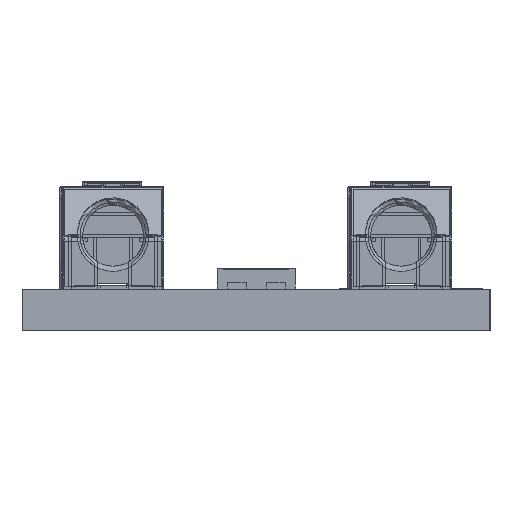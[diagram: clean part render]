
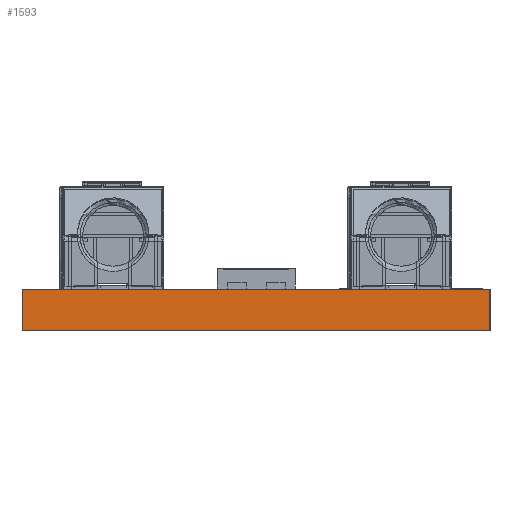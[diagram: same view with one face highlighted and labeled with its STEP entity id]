
A CAD part, left-side view. The second image highlights one B-rep face of the part: STEP entity #1593.
In plain terms, the highlighted planar face has unit normal (-1, 0, 0).
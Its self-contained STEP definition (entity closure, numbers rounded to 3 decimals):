
#1593=ADVANCED_FACE('',(#5670),#3710,.F.);
#3710=PLANE('',#45399);
#5670=FACE_OUTER_BOUND('',#7875,.T.);
#7875=EDGE_LOOP('',(#14202,#14203,#14204,#14205));
#14202=ORIENTED_EDGE('',*,*,#27667,.T.);
#14203=ORIENTED_EDGE('',*,*,#27668,.F.);
#14204=ORIENTED_EDGE('',*,*,#27669,.F.);
#14205=ORIENTED_EDGE('',*,*,#27664,.T.);
#22851=VERTEX_POINT('',#83487);
#22852=VERTEX_POINT('',#83489);
#22854=VERTEX_POINT('',#83503);
#22855=VERTEX_POINT('',#83505);
#27664=EDGE_CURVE('',#22852,#22851,#35444,.T.);
#27667=EDGE_CURVE('',#22851,#22854,#31354,.T.);
#27668=EDGE_CURVE('',#22855,#22854,#35446,.T.);
#27669=EDGE_CURVE('',#22852,#22855,#31355,.T.);
#31354=(
BOUNDED_CURVE()
B_SPLINE_CURVE(4,(#83498,#83499,#83500,#83501,#83502),.UNSPECIFIED.,.F.,
 .F.)
B_SPLINE_CURVE_WITH_KNOTS((5,5),(0.,1.),.UNSPECIFIED.)
CURVE()
GEOMETRIC_REPRESENTATION_ITEM()
RATIONAL_B_SPLINE_CURVE((1.,1.,1.,1.,1.))
REPRESENTATION_ITEM('')
);
#31355=(
BOUNDED_CURVE()
B_SPLINE_CURVE(4,(#83506,#83507,#83508,#83509,#83510),.UNSPECIFIED.,.F.,
 .F.)
B_SPLINE_CURVE_WITH_KNOTS((5,5),(0.,1.),.UNSPECIFIED.)
CURVE()
GEOMETRIC_REPRESENTATION_ITEM()
RATIONAL_B_SPLINE_CURVE((1.,1.,1.,1.,1.))
REPRESENTATION_ITEM('')
);
#35444=LINE('',#83488,#41231);
#35446=LINE('',#83504,#41233);
#41231=VECTOR('',#51772,1.);
#41233=VECTOR('',#51776,1.);
#45399=AXIS2_PLACEMENT_3D('',#83511,#51777,#51778);
#51772=DIRECTION('',(0.,0.,1.));
#51776=DIRECTION('',(0.,0.,1.));
#51777=DIRECTION('',(1.,0.,0.));
#51778=DIRECTION('',(0.,0.,-1.));
#83487=CARTESIAN_POINT('',(0.,0.,0.));
#83488=CARTESIAN_POINT('',(0.,0.,-1.6));
#83489=CARTESIAN_POINT('',(0.,0.,-1.6));
#83498=CARTESIAN_POINT('',(0.,0.,0.));
#83499=CARTESIAN_POINT('',(0.,4.5,0.));
#83500=CARTESIAN_POINT('',(0.,8.999,0.));
#83501=CARTESIAN_POINT('',(0.,13.499,0.));
#83502=CARTESIAN_POINT('',(0.,17.999,0.));
#83503=CARTESIAN_POINT('',(0.,17.999,0.));
#83504=CARTESIAN_POINT('',(0.,17.999,-1.6));
#83505=CARTESIAN_POINT('',(0.,17.999,-1.6));
#83506=CARTESIAN_POINT('',(0.,0.,-1.6));
#83507=CARTESIAN_POINT('',(0.,4.5,-1.6));
#83508=CARTESIAN_POINT('',(0.,8.999,-1.6));
#83509=CARTESIAN_POINT('',(0.,13.499,-1.6));
#83510=CARTESIAN_POINT('',(0.,17.999,-1.6));
#83511=CARTESIAN_POINT('',(0.,0.,-1.6));
